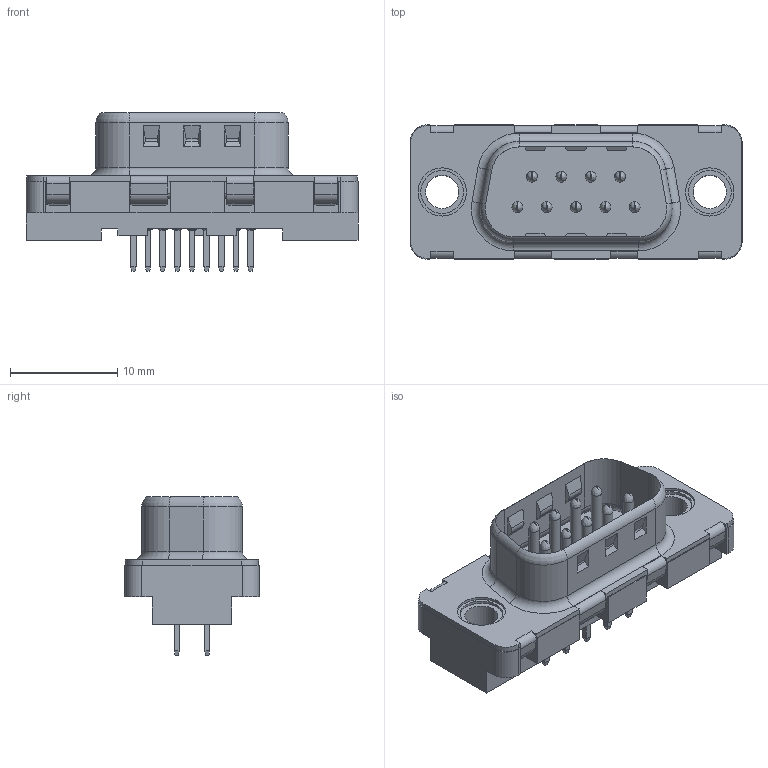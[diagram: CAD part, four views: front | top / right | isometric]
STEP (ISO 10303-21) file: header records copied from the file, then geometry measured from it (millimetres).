
FILE_DESCRIPTION((''),'2;1');
FILE_NAME('D09P24A4PA00LF_SW0001','2018-06-11T',('rajana'),('AFCI'),'CREO PARAMETRIC BY PTC INC, 2016130','CREO PARAMETRIC BY PTC INC, 2016130','');
FILE_SCHEMA(('CONFIG_CONTROL_DESIGN'));
Length unit declared in the file: millimetre
Products named in the file (1): D09P24A4PA00LF_SW0001
Bounding box: 31 x 12.55 x 14.8 mm (x, y, z)
Volume: 1664.4 mm3; surface area: 2554.9 mm2
Topology: 1 solids, 2 shells, 649 faces, 1679 edges, 1062 vertices
Faces by surface type: plane 441, cylinder 178, bspline 18, torus 12
Entity records: 20845 total; most frequent: CARTESIAN_POINT 5121, ORIENTED_EDGE 3358, DIRECTION 3064, EDGE_CURVE 1679, VECTOR 1256, LINE 1256, VERTEX_POINT 1062, AXIS2_PLACEMENT_3D 904
